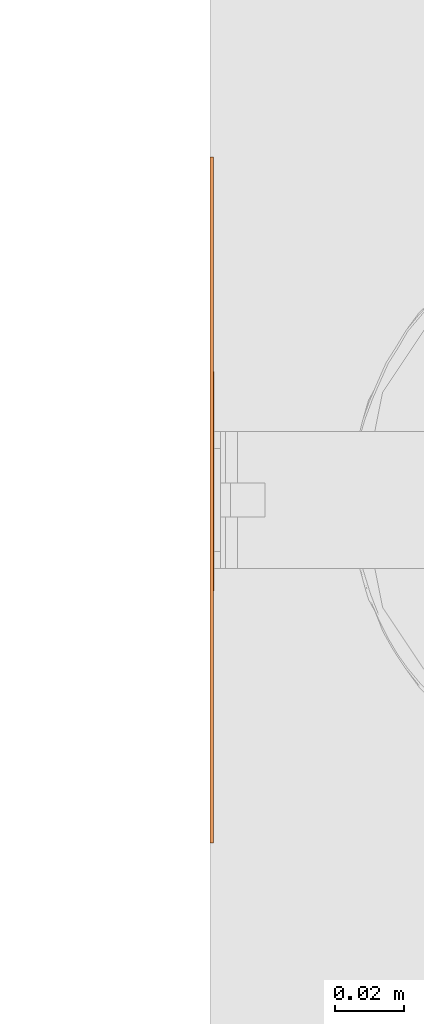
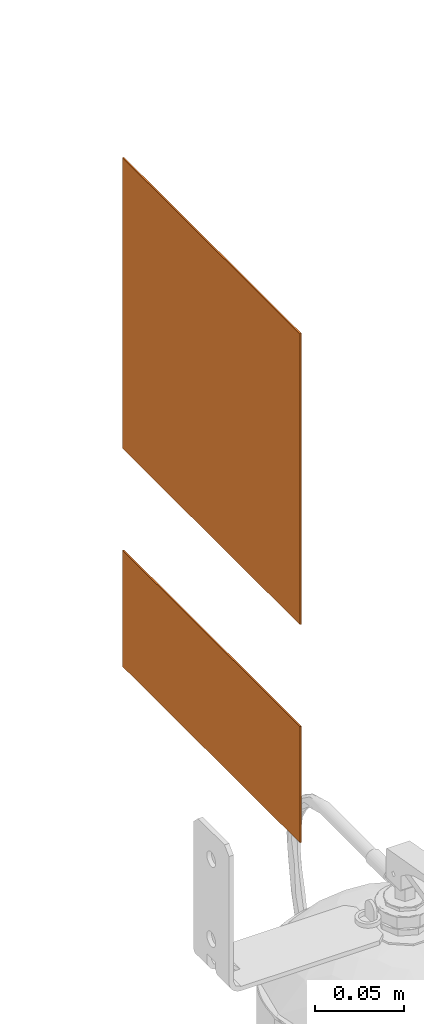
# One storey, part 29 of 119: 2 proxies.
"""IFC2X3 building model written with IfcOpenShell, lengths in metres."""

from ifc_helpers import new_model, entity, si_unit, converted_unit, derived_unit, direction, frame, frame_2d, origin, origin_2d_with_axis, place, context, subcontext, project, spatial, polyline, circle_curve, parameter, trimmed, segment, composite_curve, rectangle, outline, extrude, source, transform, mapped, material, material_list, type_object, type_shapes, element, save


model = new_model("IFC2X3")

# Units and contexts
model_context = context("Model", 3, precision=1e-05, world=origin(), true_north=direction((6.12303176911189e-17, 1.0)))
body_context = subcontext(model_context, "Body", "Model", "MODEL_VIEW")
ifc_project = project(units=[si_unit("LENGTHUNIT", "METRE"), si_unit("AREAUNIT", "SQUARE_METRE"), si_unit("VOLUMEUNIT", "CUBIC_METRE"), converted_unit("PLANEANGLEUNIT", "DEGREE", entity("IfcRatioMeasure", 0.0174532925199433), si_unit("PLANEANGLEUNIT", "RADIAN"), dimensions=[0, 0, 0, 0, 0, 0, 0]), si_unit("MASSUNIT", "GRAM", prefix="KILO"), derived_unit("MASSDENSITYUNIT", [(si_unit("MASSUNIT", "GRAM", prefix="KILO"), 1), (si_unit("LENGTHUNIT", "METRE"), -3)]), derived_unit("MOMENTOFINERTIAUNIT", [(si_unit("LENGTHUNIT", "METRE"), 4)]), si_unit("TIMEUNIT", "SECOND"), si_unit("FREQUENCYUNIT", "HERTZ"), si_unit("THERMODYNAMICTEMPERATUREUNIT", "DEGREE_CELSIUS"), derived_unit("THERMALTRANSMITTANCEUNIT", [(si_unit("MASSUNIT", "GRAM", prefix="KILO"), 1), (si_unit("THERMODYNAMICTEMPERATUREUNIT", "KELVIN"), -1), (si_unit("TIMEUNIT", "SECOND"), -3)]), derived_unit("VOLUMETRICFLOWRATEUNIT", [(si_unit("LENGTHUNIT", "METRE"), 3), (si_unit("TIMEUNIT", "SECOND"), -1)]), si_unit("ELECTRICCURRENTUNIT", "AMPERE"), si_unit("ELECTRICVOLTAGEUNIT", "VOLT"), si_unit("POWERUNIT", "WATT"), si_unit("FORCEUNIT", "NEWTON", prefix="KILO"), si_unit("ILLUMINANCEUNIT", "LUX"), si_unit("LUMINOUSFLUXUNIT", "LUMEN"), si_unit("LUMINOUSINTENSITYUNIT", "CANDELA"), derived_unit("USERDEFINED", [(si_unit("MASSUNIT", "GRAM", prefix="KILO"), -1), (si_unit("LENGTHUNIT", "METRE"), -2), (si_unit("TIMEUNIT", "SECOND"), 3), (si_unit("LUMINOUSFLUXUNIT", "LUMEN"), 1)]), derived_unit("LINEARVELOCITYUNIT", [(si_unit("LENGTHUNIT", "METRE"), 1), (si_unit("TIMEUNIT", "SECOND"), -1)]), si_unit("PRESSUREUNIT", "PASCAL"), derived_unit("USERDEFINED", [(si_unit("LENGTHUNIT", "METRE"), -2), (si_unit("MASSUNIT", "GRAM", prefix="KILO"), 1), (si_unit("TIMEUNIT", "SECOND"), -2)]), derived_unit("LINEARFORCEUNIT", [(si_unit("MASSUNIT", "GRAM", prefix="KILO"), 1), (si_unit("LENGTHUNIT", "METRE"), 1), (si_unit("TIMEUNIT", "SECOND"), -2), (si_unit("LENGTHUNIT", "METRE"), -1)]), derived_unit("PLANARFORCEUNIT", [(si_unit("MASSUNIT", "GRAM", prefix="KILO"), 1), (si_unit("LENGTHUNIT", "METRE"), 1), (si_unit("TIMEUNIT", "SECOND"), -2), (si_unit("LENGTHUNIT", "METRE"), -2)])], contexts=[model_context])

# Site, building, storey
site_placement = place(None, origin())
site = spatial("IfcSite", under=ifc_project, at=site_placement, Name="Default", CompositionType="ELEMENT")
building_placement = place(site_placement, origin())
building = spatial("IfcBuilding", under=site, at=building_placement, CompositionType="ELEMENT")
storey_placement = place(building_placement, origin())
storey = spatial("IfcBuildingStorey", under=building, at=storey_placement, Name="PAV. 01 - TÉRREO", CompositionType="ELEMENT", Elevation=0.0)

# Proxies
ifc_material_1 = material(Name="Plastico branco")
ifc_material_2 = material(Name="Plastico vermelho")
ifc_material_list_1 = material_list([ifc_material_1, ifc_material_2])
building_element_proxy_type_1 = type_object("IfcBuildingElementProxyType", Name="Sinalização de equipamentos - E05 - Extintor de incêndio:Distância 08m", PredefinedType="NOTDEFINED", material=ifc_material_1)
shared_shape_1 = source(origin(), body_context, "Body", "SweptSolid", [
    extrude(outline(composite_curve([segment(polyline([(-0.039533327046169, -0.0988107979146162), (0.0136590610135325, -0.0988107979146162)]), True, "CONTINUOUS"), segment(polyline([(0.0136590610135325, -0.0988107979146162), (0.0136590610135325, -0.0150548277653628)]), True, "CONTINUOUS"), segment(polyline([(0.0136590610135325, -0.0150548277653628), (0.0132403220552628, -0.0112272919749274)]), True, "CONTINUOUS"), segment(polyline([(0.0132403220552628, -0.0112272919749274), (0.0119841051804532, -0.00798860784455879)]), True, "CONTINUOUS"), segment(polyline([(0.0119841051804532, -0.00798860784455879), (0.00989041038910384, -0.00533877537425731)]), True, "CONTINUOUS"), segment(polyline([(0.00989041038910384, -0.00533877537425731), (0.00695923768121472, -0.00327779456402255)]), True, "CONTINUOUS"), segment(polyline([(0.00695923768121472, -0.00327779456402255), (0.00319058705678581, -0.00180566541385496)]), True, "CONTINUOUS"), segment(polyline([(0.00319058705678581, -0.00180566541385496), (-0.00141554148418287, -0.000922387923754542)]), True, "CONTINUOUS"), segment(polyline([(-0.00141554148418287, -0.000922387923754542), (-0.00685914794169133, -0.000627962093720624)]), True, "CONTINUOUS"), segment(polyline([(-0.00685914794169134, -0.000627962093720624), (-0.00685914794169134, 0.00837547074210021)]), True, "CONTINUOUS"), segment(polyline([(-0.00685914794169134, 0.00837547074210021), (0.000568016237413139, 0.00837547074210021)]), True, "CONTINUOUS"), segment(polyline([(0.000568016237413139, 0.00837547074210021), (0.021500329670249, -0.0075875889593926)]), True, "CONTINUOUS"), segment(polyline([(0.021500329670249, -0.0075875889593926), (0.021500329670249, -0.0104328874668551)]), True, "CONTINUOUS"), segment(polyline([(0.021500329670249, -0.0104328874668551), (0.0245059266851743, -0.0104328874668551)]), True, "CONTINUOUS"), segment(polyline([(0.0245059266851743, -0.0104328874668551), (0.0245059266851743, -0.00811335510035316)]), True, "CONTINUOUS"), segment(polyline([(0.0245059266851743, -0.00811335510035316), (0.0243642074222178, -0.00545038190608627)]), True, "CONTINUOUS"), segment(polyline([(0.0243642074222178, -0.00545038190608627), (0.0239570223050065, -0.0032112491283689)]), True, "CONTINUOUS"), segment(polyline([(0.0239570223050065, -0.0032112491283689), (0.0233113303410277, -0.00132119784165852)]), True, "CONTINUOUS"), segment(polyline([(0.0233113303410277, -0.00132119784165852), (0.0224540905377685, 0.00029453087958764)]), True, "CONTINUOUS"), segment(polyline([(0.0224540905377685, 0.00029453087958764), (0.0214122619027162, 0.00171069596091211)]), True, "CONTINUOUS"), segment(polyline([(0.0214122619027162, 0.00171069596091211), (0.0202128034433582, 0.00300205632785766)]), True, "CONTINUOUS"), segment(polyline([(0.0202128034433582, 0.00300205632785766), (0.0188826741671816, 0.00424337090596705)]), True, "CONTINUOUS"), segment(polyline([(0.0188826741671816, 0.00424337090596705), (0.0144021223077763, 0.00811180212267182)]), True, "CONTINUOUS"), segment(polyline([(0.0144021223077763, 0.00811180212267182), (0.0113518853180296, 0.0106145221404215)]), True, "CONTINUOUS"), segment(polyline([(0.0113518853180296, 0.0106145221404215), (0.0085825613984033, 0.0127576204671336)]), True, "CONTINUOUS"), segment(polyline([(0.0085825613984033, 0.0127576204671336), (0.00738733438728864, 0.0136170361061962)]), True, "CONTINUOUS"), segment(polyline([(0.00738733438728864, 0.0136170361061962), (0.00631521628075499, 0.0143235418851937)]), True, "CONTINUOUS"), segment(polyline([(0.00631521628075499, 0.0143235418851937), (0.00532850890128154, 0.0148903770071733)]), True, "CONTINUOUS"), segment(polyline([(0.00532850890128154, 0.0148903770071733), (0.00438926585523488, 0.0153309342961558)]), True, "CONTINUOUS"), segment(polyline([(0.00438926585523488, 0.0153309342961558), (0.00345954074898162, 0.0156586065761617)]), True, "CONTINUOUS"), segment(polyline([(0.00345954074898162, 0.0156586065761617), (0.00250138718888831, 0.0158867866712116)]), True, "CONTINUOUS"), segment(polyline([(0.00250138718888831, 0.0158867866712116), (0.00144087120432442, 0.0160289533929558)]), True, "CONTINUOUS"), segment(polyline([(0.00144087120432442, 0.0160289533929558), (-0.000108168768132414, 0.0160993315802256)]), True, "CONTINUOUS"), segment(polyline([(-0.000108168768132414, 0.0160993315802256), (-0.00685914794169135, 0.0160831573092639)]), True, "CONTINUOUS"), segment(polyline([(-0.00685914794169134, 0.0160831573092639), (-0.00685914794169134, 0.0213863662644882)]), True, "CONTINUOUS"), segment(polyline([(-0.00685914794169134, 0.0213863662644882), (-0.0177728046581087, 0.0213863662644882)]), True, "CONTINUOUS"), segment(polyline([(-0.0177728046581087, 0.0213863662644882), (-0.0177728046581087, 0.0160831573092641)]), True, "CONTINUOUS"), segment(polyline([(-0.0177728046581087, 0.0160831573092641), (-0.0288467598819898, 0.0160831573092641)]), True, "CONTINUOUS"), segment(trimmed(circle_curve(frame_2d((-0.0288467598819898, 0.0122293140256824), x_axis=(-1.0, 0.0)), 0.00385384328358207), [parameter(270.0)], [parameter(90.0000000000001)], True, "PARAMETER"), True, "CONTINUOUS"), segment(polyline([(-0.0288467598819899, 0.00837547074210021), (-0.0190151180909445, 0.00837547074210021)]), True, "CONTINUOUS"), segment(polyline([(-0.0190151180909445, 0.00837547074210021), (-0.0190151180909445, -0.000627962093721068)]), True, "CONTINUOUS"), segment(polyline([(-0.0190151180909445, -0.000627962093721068), (-0.024458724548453, -0.000922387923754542)]), True, "CONTINUOUS"), segment(polyline([(-0.024458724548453, -0.000922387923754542), (-0.0290648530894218, -0.00180566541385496)]), True, "CONTINUOUS"), segment(polyline([(-0.0290648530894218, -0.00180566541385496), (-0.0328335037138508, -0.00327779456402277)]), True, "CONTINUOUS"), segment(polyline([(-0.0328335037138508, -0.00327779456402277), (-0.03576467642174, -0.00533877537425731)]), True, "CONTINUOUS"), segment(polyline([(-0.03576467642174, -0.00533877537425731), (-0.0378583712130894, -0.00798860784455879)]), True, "CONTINUOUS"), segment(polyline([(-0.0378583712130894, -0.00798860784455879), (-0.0391145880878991, -0.0112272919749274)]), True, "CONTINUOUS"), segment(polyline([(-0.0391145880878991, -0.0112272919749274), (-0.039533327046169, -0.0150548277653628)]), True, "CONTINUOUS"), segment(polyline([(-0.039533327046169, -0.0150548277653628), (-0.039533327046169, -0.0988107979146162)]), True, "CONTINUOUS")], self_intersect=False)), frame((-0.0129371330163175, 0.0, 1.94006139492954), z_axis=(0.0, 1.0, 0.0), x_axis=(-1.0, 0.0, 0.0)), (0.0, 0.0, 1.0), 0.0011),
    extrude(rectangle(XDim=0.179, YDim=0.001, at=origin_2d_with_axis()), frame((0.0, 0.0005, 1.8105), z_axis=(0.0, 0.0, 1.0), x_axis=(-1.0, 0.0, 0.0)), (0.0, 0.0, 1.0), 0.179),
    extrude(outline(polyline([(-0.100000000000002, -0.1), (0.100000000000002, -0.1), (0.100000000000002, 0.1), (-0.100000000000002, 0.1), (-0.100000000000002, -0.1)]), holes=[polyline([(-0.0895000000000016, -0.0895000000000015), (-0.0895000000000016, 0.0894999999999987), (0.0894999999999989, 0.0894999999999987), (0.0894999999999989, -0.0895000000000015), (-0.0895000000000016, -0.0895000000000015)])]), frame((0.0, 0.0, 1.9), z_axis=(0.0, 1.0, 0.0), x_axis=(0.0, 0.0, -1.0)), (0.0, 0.0, 1.0), 0.001),
])
type_shapes(building_element_proxy_type_1, [shared_shape_1])
proxy_1_placement = place(storey_placement, frame((18.7740605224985, 4.28528889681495, 0.0), z_axis=(0.0, 0.0, 1.0), x_axis=(0.0, -1.0, 0.0)))
element("IfcBuildingElementProxy", 1, at=proxy_1_placement, inside=storey, type_object=building_element_proxy_type_1, material=ifc_material_list_1, Name="Sinalização de equipamentos - E05 - Extintor de incêndio:Distância 08m", ObjectType="Sinalização de equipamentos - E05 - Extintor de incêndio:Distância 08m", context=body_context, shape_type="MappedRepresentation", body=[
    mapped(shared_shape_1, transform((0.0, 0.0, 0.0), scale=1.0)),
])
ifc_material_3 = material(Name="Plastico Preto")
ifc_material_4 = material(Name="Plastico azul claro")
ifc_material_5 = material(Name="Plastico Verde")
ifc_material_list_2 = material_list([ifc_material_3, ifc_material_4, ifc_material_2, ifc_material_1, ifc_material_5])
building_element_proxy_type_2 = type_object("IfcBuildingElementProxyType", Name="Sinalização de equipamentos - E05 - Extintor de incêndio - TIPO 2:Placa de extintor - E6-A", PredefinedType="NOTDEFINED", material=ifc_material_3)
shared_shape_2 = source(origin(), body_context, "Body", "SweptSolid", [
    extrude(rectangle(XDim=0.0243464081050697, YDim=0.001, at=origin_2d_with_axis()), frame((0.0791678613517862, 0.0005, 0.0143679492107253), z_axis=(0.0, 0.0, 1.0), x_axis=(-1.0, 0.0, 0.0)), (0.0, 0.0, 1.0), 0.0243153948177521),
    extrude(rectangle(XDim=0.0243464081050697, YDim=0.001, at=origin_2d_with_axis()), frame((0.0514092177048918, 0.0005, 0.0143679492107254), z_axis=(0.0, 0.0, 1.0), x_axis=(-1.0, 0.0, 0.0)), (0.0, 0.0, 1.0), 0.0243153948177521),
    extrude(rectangle(XDim=0.0243464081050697, YDim=0.001, at=origin_2d_with_axis()), frame((0.023605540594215, 0.0005, 0.0143679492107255), z_axis=(0.0, 0.0, 1.0), x_axis=(-1.0, 0.0, 0.0)), (0.0, 0.0, 1.0), 0.0243153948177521),
    extrude(rectangle(XDim=0.0243464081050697, YDim=0.001, at=origin_2d_with_axis()), frame((-0.00415310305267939, 0.0005, 0.0143679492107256), z_axis=(0.0, 0.0, 1.0), x_axis=(-1.0, 0.0, 0.0)), (0.0, 0.0, 1.0), 0.0243153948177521),
    extrude(outline(polyline([(-0.0399999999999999, -0.1), (0.0399999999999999, -0.1), (0.0399999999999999, 0.1), (-0.0399999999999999, 0.1), (-0.0399999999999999, -0.1)]), holes=[polyline([(-0.0319999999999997, 0.091), (-0.0150022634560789, 0.091), (-0.0150022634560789, -0.091), (-0.0319999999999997, -0.091), (-0.0319999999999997, 0.091)]), polyline([(-0.010791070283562, 0.091), (0.0319999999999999, 0.091), (0.0319999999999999, 0.0473282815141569), (-0.010791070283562, 0.0473282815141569), (-0.010791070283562, 0.091)]), polyline([(0.00131665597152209, 0.0441091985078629), (0.0256320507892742, 0.0441091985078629), (0.0256320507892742, 0.0197627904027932), (0.00131665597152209, 0.0197627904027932), (0.00131665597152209, 0.0441091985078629)]), polyline([(0.00131665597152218, 0.0163263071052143), (0.0256320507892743, 0.0163263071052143), (0.0256320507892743, -0.00802010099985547), (0.00131665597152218, -0.00802010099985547), (0.00131665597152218, 0.0163263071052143)]), polyline([(0.00131665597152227, -0.0114323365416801), (0.0256320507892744, -0.0114323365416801), (0.0256320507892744, -0.0357787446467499), (0.00131665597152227, -0.0357787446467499), (0.00131665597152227, -0.0114323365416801)]), polyline([(0.00131665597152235, -0.0635824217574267), (0.00131665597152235, -0.039236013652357), (0.0256320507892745, -0.039236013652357), (0.0256320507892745, -0.0635824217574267), (0.00131665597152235, -0.0635824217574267)]), polyline([(0.00131665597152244, -0.0669946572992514), (0.0256320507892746, -0.0669946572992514), (0.0256320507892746, -0.091), (0.00131665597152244, -0.091), (0.00131665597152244, -0.0669946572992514)])]), frame((0.0, 0.0, 0.0399999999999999), z_axis=(0.0, 1.0, 0.0), x_axis=(0.0, 0.0, -1.0)), (0.0, 0.0, 1.0), 0.001),
    extrude(outline(composite_curve([segment(trimmed(circle_curve(frame_2d((-0.00182713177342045, 0.0030692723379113), x_axis=(1.0, 0.0)), 0.00333179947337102), [parameter(180.0)], [parameter(270.0)], True, "PARAMETER"), True, "CONTINUOUS"), segment(polyline([(-0.00182713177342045, -0.000262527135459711), (-0.000430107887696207, -0.000262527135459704)]), True, "CONTINUOUS"), segment(polyline([(-0.000430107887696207, -0.000262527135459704), (-0.000430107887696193, -0.00350797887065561)]), True, "CONTINUOUS"), segment(polyline([(-0.000430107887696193, -0.00350797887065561), (-0.00249820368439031, -0.00350797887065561)]), True, "CONTINUOUS"), segment(polyline([(-0.00249820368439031, -0.00350797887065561), (-0.00742535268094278, 7.18044171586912e-05)]), True, "CONTINUOUS"), segment(polyline([(-0.00742535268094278, 7.18044171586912e-05), (-0.00742535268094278, 0.00166630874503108)]), True, "CONTINUOUS"), segment(polyline([(-0.00742535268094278, 0.00166630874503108), (-0.00871124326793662, 0.00166630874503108)]), True, "CONTINUOUS"), segment(polyline([(-0.00871124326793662, 0.00166630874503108), (-0.00846384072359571, -0.00134355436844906)]), True, "CONTINUOUS"), segment(trimmed(circle_curve(frame_2d((-0.00608099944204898, -0.00114769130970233), x_axis=(1.0, 0.0)), 0.00239087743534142), [parameter(184.698993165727)], [parameter(232.0)], True, "PARAMETER"), True, "CONTINUOUS"), segment(polyline([(-0.00755297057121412, -0.00303172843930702), (-0.0030496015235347, -0.00655014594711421)]), True, "CONTINUOUS"), segment(polyline([(-0.0030496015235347, -0.00655014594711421), (-0.000124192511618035, -0.00655014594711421)]), True, "CONTINUOUS"), segment(polyline([(-0.000124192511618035, -0.00655014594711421), (-0.000124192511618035, -0.00788602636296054)]), True, "CONTINUOUS"), segment(polyline([(-0.000124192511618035, -0.00788602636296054), (0.003207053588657, -0.00788602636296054)]), True, "CONTINUOUS"), segment(polyline([(0.003207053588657, -0.00788602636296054), (0.003207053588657, -0.00698801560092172)]), True, "CONTINUOUS"), segment(polyline([(0.003207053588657, -0.00698801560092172), (0.00540783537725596, -0.00698801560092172)]), True, "CONTINUOUS"), segment(polyline([(0.00540783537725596, -0.00698801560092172), (0.00665542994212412, -0.00574042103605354)]), True, "CONTINUOUS"), segment(polyline([(0.00665542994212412, -0.00574042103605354), (0.00665542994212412, -0.00450724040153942)]), True, "CONTINUOUS"), segment(polyline([(0.00665542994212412, -0.00450724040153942), (0.00491919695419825, -0.00324579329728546)]), True, "CONTINUOUS"), segment(polyline([(0.00491919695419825, -0.00324579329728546), (0.00355615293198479, -0.00324579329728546)]), True, "CONTINUOUS"), segment(polyline([(0.00355615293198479, -0.00324579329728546), (0.00355615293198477, -0.000262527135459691)]), True, "CONTINUOUS"), segment(polyline([(0.00355615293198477, -0.000262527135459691), (0.00500257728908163, -0.000262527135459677)]), True, "CONTINUOUS"), segment(trimmed(circle_curve(frame_2d((0.00500257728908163, 0.00284153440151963), x_axis=(1.0, 0.0)), 0.00310406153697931), [parameter(270.0)], [parameter(1.52666624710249e-13)], True, "PARAMETER"), True, "CONTINUOUS"), segment(polyline([(0.00810663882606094, 0.00284153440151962), (0.0081066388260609, 0.0313568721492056)]), True, "CONTINUOUS"), segment(polyline([(0.0081066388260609, 0.0313568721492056), (-0.00515893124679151, 0.0313568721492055)]), True, "CONTINUOUS"), segment(polyline([(-0.00515893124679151, 0.0313568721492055), (-0.00515893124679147, 0.00306927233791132)]), True, "CONTINUOUS")], self_intersect=False)), frame((-0.0705753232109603, 0.0, 0.0413479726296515), z_axis=(0.0, 1.0, 0.0), x_axis=(1.0, 0.0, 0.0)), (0.0, 0.0, 1.0), 0.001),
    extrude(rectangle(XDim=0.0243464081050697, YDim=0.001, at=origin_2d_with_axis()), frame((-0.0319359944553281, 0.0005, 0.0143679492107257), z_axis=(0.0, 0.0, 1.0), x_axis=(-1.0, 0.0, 0.0)), (0.0, 0.0, 1.0), 0.0243153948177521),
    extrude(outline(polyline([(-0.0218358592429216, -0.021395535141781), (0.0218358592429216, -0.021395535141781), (0.0218358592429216, 0.021395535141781), (-0.0218358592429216, 0.021395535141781), (-0.0218358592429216, -0.021395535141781)]), holes=[composite_curve([segment(polyline([(-0.00669545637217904, -0.0194044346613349), (-0.00669545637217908, 0.00911090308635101)]), True, "CONTINUOUS"), segment(trimmed(circle_curve(frame_2d((-0.00359139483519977, 0.00911090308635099), x_axis=(-1.0, 0.0)), 0.00310406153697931), [parameter(270.0)], [parameter(360.0)], True, "PARAMETER"), False, "CONTINUOUS"), segment(polyline([(-0.0035913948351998, 0.0122149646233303), (-0.00214497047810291, 0.0122149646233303)]), True, "CONTINUOUS"), segment(polyline([(-0.00214497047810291, 0.0122149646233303), (-0.00214497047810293, 0.0151982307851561)]), True, "CONTINUOUS"), segment(polyline([(-0.00214497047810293, 0.0151982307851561), (-0.0035080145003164, 0.0151982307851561)]), True, "CONTINUOUS"), segment(polyline([(-0.0035080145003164, 0.0151982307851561), (-0.00524424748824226, 0.01645967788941)]), True, "CONTINUOUS"), segment(polyline([(-0.00524424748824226, 0.01645967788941), (-0.00524424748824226, 0.0176928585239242)]), True, "CONTINUOUS"), segment(polyline([(-0.00524424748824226, 0.0176928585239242), (-0.0039966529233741, 0.0189404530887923)]), True, "CONTINUOUS"), segment(polyline([(-0.0039966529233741, 0.0189404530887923), (-0.00179587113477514, 0.0189404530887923)]), True, "CONTINUOUS"), segment(polyline([(-0.00179587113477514, 0.0189404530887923), (-0.00179587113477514, 0.0198384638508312)]), True, "CONTINUOUS"), segment(polyline([(-0.00179587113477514, 0.0198384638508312), (0.00153537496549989, 0.0198384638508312)]), True, "CONTINUOUS"), segment(polyline([(0.00153537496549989, 0.0198384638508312), (0.00153537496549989, 0.0185025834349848)]), True, "CONTINUOUS"), segment(polyline([(0.00153537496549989, 0.0185025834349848), (0.00446078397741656, 0.0185025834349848)]), True, "CONTINUOUS"), segment(polyline([(0.00446078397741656, 0.0185025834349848), (0.00896415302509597, 0.0149841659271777)]), True, "CONTINUOUS"), segment(trimmed(circle_curve(frame_2d((0.00749218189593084, 0.0131001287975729), x_axis=(-1.0, 0.0)), 0.00239087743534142), [parameter(184.698993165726)], [parameter(231.999999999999)], True, "PARAMETER"), False, "CONTINUOUS"), segment(polyline([(0.00987502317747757, 0.0132959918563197), (0.0101224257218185, 0.0102861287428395)]), True, "CONTINUOUS"), segment(polyline([(0.0101224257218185, 0.0102861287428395), (0.00883653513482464, 0.0102861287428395)]), True, "CONTINUOUS"), segment(polyline([(0.00883653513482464, 0.0102861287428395), (0.00883653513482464, 0.0118806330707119)]), True, "CONTINUOUS"), segment(polyline([(0.00883653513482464, 0.0118806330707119), (0.00390938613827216, 0.0154604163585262)]), True, "CONTINUOUS"), segment(polyline([(0.00390938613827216, 0.0154604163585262), (0.00184129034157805, 0.0154604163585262)]), True, "CONTINUOUS"), segment(polyline([(0.00184129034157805, 0.0154604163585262), (0.00184129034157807, 0.0122149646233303)]), True, "CONTINUOUS"), segment(polyline([(0.00184129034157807, 0.0122149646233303), (0.00323831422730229, 0.0122149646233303)]), True, "CONTINUOUS"), segment(trimmed(circle_curve(frame_2d((0.00323831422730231, 0.00888316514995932), x_axis=(-1.0, 0.0)), 0.00333179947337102), [parameter(180.0)], [parameter(270.0)], True, "PARAMETER"), False, "CONTINUOUS"), segment(polyline([(0.00657011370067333, 0.00888316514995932), (0.00657011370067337, -0.0194044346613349)]), True, "CONTINUOUS"), segment(polyline([(0.00657011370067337, -0.0194044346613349), (-0.00669545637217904, -0.0194044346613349)]), True, "CONTINUOUS")], self_intersect=False)]), frame((-0.0691641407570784, 0.0, 0.0293955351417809), z_axis=(0.0, 1.0, 0.0), x_axis=(-1.0, 0.0, 0.0)), (0.0, 0.0, 1.0), 0.001),
    extrude(rectangle(XDim=0.182, YDim=0.001, at=origin_2d_with_axis()), frame((0.0, 0.0005, 0.0550022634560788), z_axis=(0.0, 0.0, 1.0), x_axis=(-1.0, 0.0, 0.0)), (0.0, 0.0, 1.0), 0.0169977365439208),
])
type_shapes(building_element_proxy_type_2, [shared_shape_2])
proxy_2_placement = place(storey_placement, frame((18.7740605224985, 4.28528889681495, 1.65), z_axis=(0.0, 0.0, 1.0), x_axis=(0.0, -1.0, 0.0)))
element("IfcBuildingElementProxy", 2, at=proxy_2_placement, inside=storey, type_object=building_element_proxy_type_2, material=ifc_material_list_2, Name="Sinalização de equipamentos - E05 - Extintor de incêndio - TIPO 2:Placa de extintor - E6-A", ObjectType="Sinalização de equipamentos - E05 - Extintor de incêndio - TIPO 2:Placa de extintor - E6-A", context=body_context, shape_type="MappedRepresentation", body=[
    mapped(shared_shape_2, transform((0.0, 0.0, 0.0), scale=1.0)),
])

save(model, "model.ifc")
